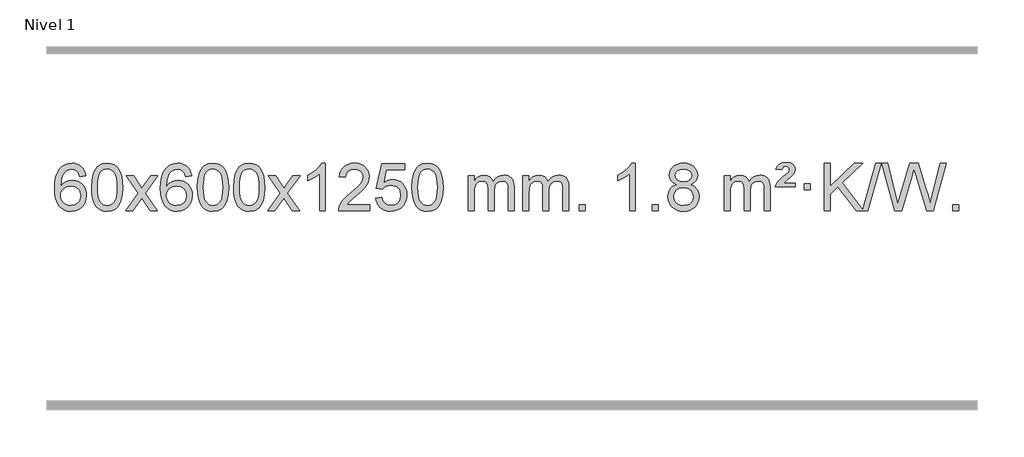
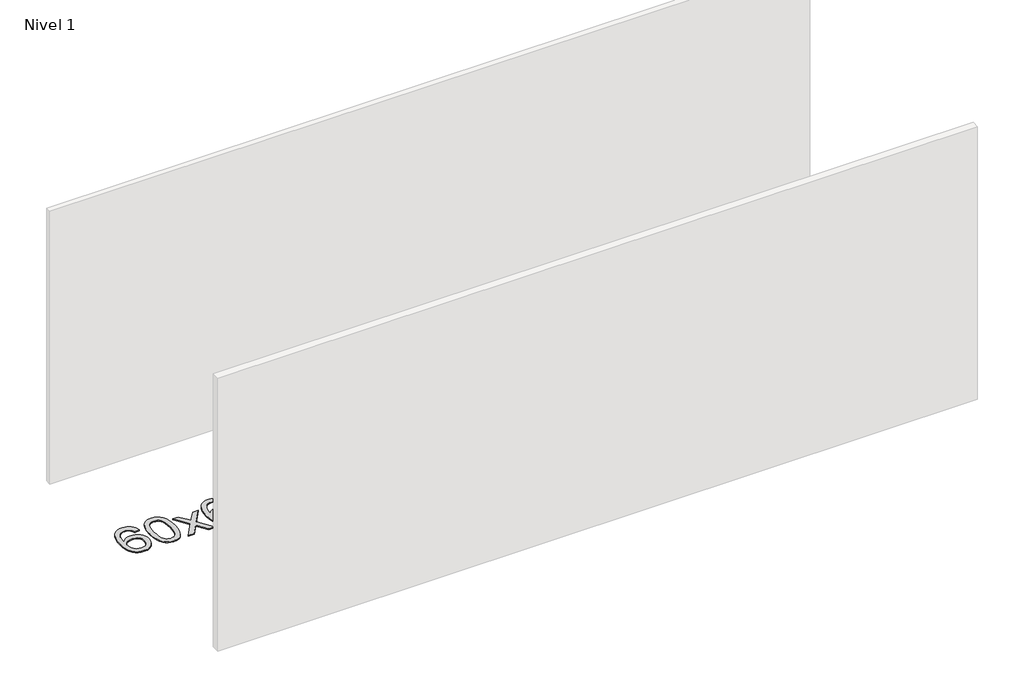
# One storey, part 4 of 6: 1 proxy.
"""IFC4 building model written with IfcOpenShell, lengths in millimetres."""

from ifc_helpers import new_model, si_unit, origin, origin_with_axes, place, context, project, spatial, polyline, outline, extrude, element, save

model = new_model("IFC4")

# Units and contexts
model_context = context("Model", 3, world=origin())
ifc_project = project(units=[si_unit("LENGTHUNIT", "METRE", prefix="MILLI")], contexts=[model_context])

# Site, building, storey
site = spatial("IfcSite", under=ifc_project)
building = spatial("IfcBuilding", under=site)
storey = spatial("IfcBuildingStorey", under=building, Name="Nivel 1", Elevation=0.0)

# Proxy
placement = place(None, origin())
element("IfcBuildingElementProxy", 1, Name="Texto de modelo 1", ObjectType="Texto de modelo 1", at=placement, inside=storey, context=model_context, shape_type="SweptSolid", body=[
    extrude(outline(polyline([(-6198.7504157, -3100.4890419), (-6248.9785708, -3106.7675613), (-6257.0719747, -3081.874213), (-6268.0103327, -3064.8780648), (-6290.7944909, -3049.2062918), (-6318.3365896, -3043.9823675), (-6341.6848336, -3047.0235253), (-6363.6596514, -3056.1469988), (-6382.5319978, -3075.3627017), (-6397.9462534, -3101.8134171), (-6408.3573138, -3139.227016), (-6412.2200748, -3191.3313693), (-6392.0724042, -3167.8237098), (-6367.9270826, -3151.2567573), (-6341.1330106, -3141.434308), (-6313.0390889, -3138.1601582), (-6288.90603, -3140.398107), (-6266.6369065, -3147.1119534), (-6246.2317185, -3158.3016975), (-6227.690466, -3173.9673391), (-6212.2823418, -3193.1769106), (-6201.2765387, -3214.9984443), (-6194.6730569, -3239.4319401), (-6192.4718963, -3266.4773982), (-6196.6167001, -3302.4439945), (-6209.0511116, -3335.786366), (-6228.745061, -3364.0642287), (-6254.668479, -3384.8372987), (-6285.644143, -3397.602804), (-6320.4948306, -3401.8579724), (-6350.4373594, -3399.0375437), (-6377.4797517, -3390.5762579), (-6401.6220076, -3376.4741147), (-6422.8641272, -3356.7311143), (-6440.1821721, -3330.5133908), (-6452.5522042, -3296.9870783), (-6459.9742234, -3256.1521768), (-6462.4482298, -3208.0086864), (-6459.7013776, -3154.0342663), (-6451.4608209, -3107.9693092), (-6437.7265598, -3069.8138149), (-6418.4985942, -3039.5677835), (-6397.6580791, -3019.5243462), (-6373.4943634, -3005.2076052), (-6346.007447, -2996.6175606), (-6315.1973299, -2993.7542124), (-6292.0636838, -2995.5261773), (-6271.1250669, -3000.8420722), (-6252.3814792, -3009.7018969), (-6235.8329208, -3022.1056515), (-6221.9269814, -3037.6364031), (-6211.1112507, -3055.8772186), (-6203.3857288, -3076.8280983), (-6198.7504157, -3100.4890419)]), holes=[polyline([(-6412.2200748, -3265.6925832), (-6409.313807, -3287.9494439), (-6400.5950037, -3309.2007605), (-6387.0569463, -3327.472233), (-6369.6929161, -3340.7895612), (-6348.7359051, -3348.9197533), (-6324.4189053, -3351.6298173), (-6291.2727375, -3346.0134855), (-6277.357601, -3338.9930708), (-6265.2144295, -3329.1644901), (-6255.3643891, -3316.9262824), (-6248.3286459, -3302.6769865), (-6242.7000514, -3268.1451299), (-6248.2550695, -3234.9989621), (-6255.1988422, -3221.3781312), (-6264.9201239, -3209.725469), (-6277.1000836, -3200.3904634), (-6291.4198903, -3193.7226022), (-6326.4790444, -3188.3883133), (-6359.5761613, -3193.7226022), (-6387.25315, -3209.725469), (-6398.1761796, -3221.2248471), (-6405.9783436, -3234.3858254), (-6410.659642, -3249.2084042), (-6412.2200748, -3265.6925832)])]), origin_with_axes(), (0.0, 0.0, 1.0), 10.0),
    extrude(outline(polyline([(-6148.5222606, -3197.9041943), (-6144.8311779, -3133.5861588), (-6133.7579299, -3082.2911459), (-6115.4128811, -3043.2343407), (-6103.5548181, -3028.0009605), (-6089.9063961, -3015.6309284), (-6074.4216298, -3006.0598651), (-6057.0545339, -2999.2233914), (-6016.6733536, -2993.7542124), (-5985.722215, -2996.991574), (-5958.0084381, -3006.7036586), (-5934.8318724, -3022.5103217), (-5917.4923677, -3044.0314184), (-5904.3957686, -3071.0830078), (-5893.94792, -3103.4811488), (-5887.1053149, -3144.6226186), (-5884.8244465, -3197.9041943), (-5888.478741, -3261.8543477), (-5899.4416244, -3313.0267333), (-5917.6763087, -3352.1203266), (-5929.5067805, -3367.3996922), (-5943.1460055, -3379.8341036), (-5958.6491659, -3389.4695462), (-5976.071444, -3396.3520052), (-6016.6733536, -3401.8579724), (-6044.3380796, -3399.4667394), (-6068.8635459, -3392.2930405), (-6090.2497526, -3380.3368757), (-6108.4966996, -3363.5982449), (-6126.0078825, -3333.3399508), (-6138.5158704, -3295.6381776), (-6146.0206631, -3250.4929255), (-6148.5222606, -3197.9041943)]), holes=[polyline([(-6098.2941056, -3197.8060924), (-6096.8225776, -3241.4706195), (-6092.4079936, -3276.8148822), (-6085.0503537, -3303.8388804), (-6074.7496579, -3322.5426142), (-6062.290721, -3335.2682656), (-6048.4583579, -3344.3580165), (-6033.2525688, -3349.8118671), (-6016.6733536, -3351.6298173), (-6000.0941383, -3349.8057357), (-5984.8883492, -3344.3334911), (-5971.0559862, -3335.2130833), (-5958.5970493, -3322.4445124), (-5948.2963534, -3303.7101217), (-5940.9387135, -3276.6922549), (-5936.5241295, -3241.3909118), (-5935.0526016, -3197.8060924), (-5936.4750786, -3155.2973278), (-5940.7425098, -3120.5753989), (-5947.854895, -3093.6403055), (-5957.8122343, -3074.4920476), (-5970.0627048, -3061.1440625), (-5984.0544833, -3051.6097875), (-5999.78757, -3045.8892225), (-6017.2619648, -3043.9823675), (-6033.7553409, -3045.6623619), (-6048.7036126, -3050.7023452), (-6062.10678, -3059.1023175), (-6073.9648429, -3070.8622786), (-6084.6088953, -3091.708925), (-6092.2117899, -3119.8151094), (-6096.7735266, -3155.1808319), (-6098.2941056, -3197.8060924)])]), origin_with_axes(), (0.0, 0.0, 1.0), 10.0),
    extrude(outline(polyline([(-5859.7103689, -3395.579453), (-5752.3869282, -3247.2494325), (-5853.4318496, -3100.4890419), (-5793.0011005, -3100.4890419), (-5744.2444734, -3171.122385), (-5721.4848406, -3204.4770192), (-5701.7663657, -3177.2047007), (-5646.2407099, -3100.4890419), (-5585.8099608, -3100.4890419), (-5691.9561791, -3247.2494325), (-5589.7340354, -3395.579453), (-5650.1647845, -3395.579453), (-5711.6746541, -3306.4048574), (-5722.9563686, -3290.1199477), (-5799.2796199, -3395.579453), (-5859.7103689, -3395.579453)])), origin_with_axes(), (0.0, 0.0, 1.0), 10.0),
    extrude(outline(polyline([(-5300.9221437, -3100.4890419), (-5351.1502988, -3106.7675613), (-5359.2437027, -3081.874213), (-5370.1820607, -3064.8780648), (-5392.9662189, -3049.2062918), (-5420.5083176, -3043.9823675), (-5443.8565616, -3047.0235253), (-5465.8313794, -3056.1469988), (-5484.7037258, -3075.3627017), (-5500.1179814, -3101.8134171), (-5510.5290419, -3139.227016), (-5514.3918028, -3191.3313693), (-5494.2441322, -3167.8237098), (-5470.0988106, -3151.2567573), (-5443.3047386, -3141.434308), (-5415.2108169, -3138.1601582), (-5391.077758, -3140.398107), (-5368.8086346, -3147.1119534), (-5348.4034466, -3158.3016975), (-5329.862194, -3173.9673391), (-5314.4540698, -3193.1769106), (-5303.4482668, -3214.9984443), (-5296.844785, -3239.4319401), (-5294.6436244, -3266.4773982), (-5298.7884282, -3302.4439945), (-5311.2228396, -3335.786366), (-5330.9167891, -3364.0642287), (-5356.840207, -3384.8372987), (-5387.815871, -3397.602804), (-5422.6665587, -3401.8579724), (-5452.6090874, -3399.0375437), (-5479.6514797, -3390.5762579), (-5503.7937357, -3376.4741147), (-5525.0358552, -3356.7311143), (-5542.3539001, -3330.5133908), (-5554.7239322, -3296.9870783), (-5562.1459515, -3256.1521768), (-5564.6199579, -3208.0086864), (-5561.8731057, -3154.0342663), (-5553.632549, -3107.9693092), (-5539.8982878, -3069.8138149), (-5520.6703222, -3039.5677835), (-5499.8298072, -3019.5243462), (-5475.6660915, -3005.2076052), (-5448.179175, -2996.6175606), (-5417.3690579, -2993.7542124), (-5394.2354118, -2995.5261773), (-5373.2967949, -3000.8420722), (-5354.5532073, -3009.7018969), (-5338.0046489, -3022.1056515), (-5324.0987094, -3037.6364031), (-5313.2829788, -3055.8772186), (-5305.5574569, -3076.8280983), (-5300.9221437, -3100.4890419)]), holes=[polyline([(-5514.3918028, -3265.6925832), (-5511.485535, -3287.9494439), (-5502.7667318, -3309.2007605), (-5489.2286743, -3327.472233), (-5471.8646442, -3340.7895612), (-5450.9076332, -3348.9197533), (-5426.5906333, -3351.6298173), (-5393.4444655, -3346.0134855), (-5379.5293291, -3338.9930708), (-5367.3861575, -3329.1644901), (-5357.5361171, -3316.9262824), (-5350.500374, -3302.6769865), (-5344.8717794, -3268.1451299), (-5350.4267976, -3234.9989621), (-5357.3705702, -3221.3781312), (-5367.0918519, -3209.725469), (-5379.2718117, -3200.3904634), (-5393.5916183, -3193.7226022), (-5428.6507725, -3188.3883133), (-5461.7478893, -3193.7226022), (-5489.4248781, -3209.725469), (-5500.3479076, -3221.2248471), (-5508.1500716, -3234.3858254), (-5512.83137, -3249.2084042), (-5514.3918028, -3265.6925832)])]), origin_with_axes(), (0.0, 0.0, 1.0), 10.0),
    extrude(outline(polyline([(-5250.6939887, -3197.9041943), (-5247.002906, -3133.5861588), (-5235.9296579, -3082.2911459), (-5217.5846091, -3043.2343407), (-5205.7265461, -3028.0009605), (-5192.0781241, -3015.6309284), (-5176.5933578, -3006.0598651), (-5159.2262619, -2999.2233914), (-5118.8450816, -2993.7542124), (-5087.8939431, -2996.991574), (-5060.1801661, -3006.7036586), (-5037.0036004, -3022.5103217), (-5019.6640957, -3044.0314184), (-5006.5674967, -3071.0830078), (-4996.119648, -3103.4811488), (-4989.2770429, -3144.6226186), (-4986.9961745, -3197.9041943), (-4990.650469, -3261.8543477), (-5001.6133525, -3313.0267333), (-5019.8480367, -3352.1203266), (-5031.6785085, -3367.3996922), (-5045.3177335, -3379.8341036), (-5060.8208939, -3389.4695462), (-5078.2431721, -3396.3520052), (-5118.8450816, -3401.8579724), (-5146.5098076, -3399.4667394), (-5171.035274, -3392.2930405), (-5192.4214806, -3380.3368757), (-5210.6684276, -3363.5982449), (-5228.1796106, -3333.3399508), (-5240.6875984, -3295.6381776), (-5248.1923911, -3250.4929255), (-5250.6939887, -3197.9041943)]), holes=[polyline([(-5200.4658336, -3197.8060924), (-5198.9943056, -3241.4706195), (-5194.5797217, -3276.8148822), (-5187.2220818, -3303.8388804), (-5176.9213859, -3322.5426142), (-5164.462449, -3335.2682656), (-5150.630086, -3344.3580165), (-5135.4242968, -3349.8118671), (-5118.8450816, -3351.6298173), (-5102.2658663, -3349.8057357), (-5087.0600772, -3344.3334911), (-5073.2277142, -3335.2130833), (-5060.7687773, -3322.4445124), (-5050.4680814, -3303.7101217), (-5043.1104415, -3276.6922549), (-5038.6958576, -3241.3909118), (-5037.2243296, -3197.8060924), (-5038.6468066, -3155.2973278), (-5042.9142378, -3120.5753989), (-5050.026623, -3093.6403055), (-5059.9839624, -3074.4920476), (-5072.2344328, -3061.1440625), (-5086.2262114, -3051.6097875), (-5101.959298, -3045.8892225), (-5119.4336928, -3043.9823675), (-5135.9270689, -3045.6623619), (-5150.8753406, -3050.7023452), (-5164.278508, -3059.1023175), (-5176.136571, -3070.8622786), (-5186.7806234, -3091.708925), (-5194.3835179, -3119.8151094), (-5198.9452547, -3155.1808319), (-5200.4658336, -3197.8060924)])]), origin_with_axes(), (0.0, 0.0, 1.0), 10.0),
    extrude(outline(polyline([(-4943.0465388, -3197.9041943), (-4939.3554561, -3133.5861588), (-4928.2822081, -3082.2911459), (-4909.9371593, -3043.2343407), (-4898.0790963, -3028.0009605), (-4884.4306743, -3015.6309284), (-4868.945908, -3006.0598651), (-4851.5788121, -2999.2233914), (-4811.1976318, -2993.7542124), (-4780.2464932, -2996.991574), (-4752.5327163, -3006.7036586), (-4729.3561506, -3022.5103217), (-4712.0166459, -3044.0314184), (-4698.9200468, -3071.0830078), (-4688.4721982, -3103.4811488), (-4681.6295931, -3144.6226186), (-4679.3487247, -3197.9041943), (-4683.0030192, -3261.8543477), (-4693.9659026, -3313.0267333), (-4712.2005869, -3352.1203266), (-4724.0310587, -3367.3996922), (-4737.6702837, -3379.8341036), (-4753.1734441, -3389.4695462), (-4770.5957222, -3396.3520052), (-4811.1976318, -3401.8579724), (-4838.8623578, -3399.4667394), (-4863.3878241, -3392.2930405), (-4884.7740308, -3380.3368757), (-4903.0209778, -3363.5982449), (-4920.5321607, -3333.3399508), (-4933.0401486, -3295.6381776), (-4940.5449413, -3250.4929255), (-4943.0465388, -3197.9041943)]), holes=[polyline([(-4892.8183838, -3197.8060924), (-4891.3468558, -3241.4706195), (-4886.9322718, -3276.8148822), (-4879.5746319, -3303.8388804), (-4869.2739361, -3322.5426142), (-4856.8149992, -3335.2682656), (-4842.9826361, -3344.3580165), (-4827.776847, -3349.8118671), (-4811.1976318, -3351.6298173), (-4794.6184165, -3349.8057357), (-4779.4126274, -3344.3334911), (-4765.5802644, -3335.2130833), (-4753.1213275, -3322.4445124), (-4742.8206316, -3303.7101217), (-4735.4629917, -3276.6922549), (-4731.0484077, -3241.3909118), (-4729.5768798, -3197.8060924), (-4730.9993568, -3155.2973278), (-4735.266788, -3120.5753989), (-4742.3791732, -3093.6403055), (-4752.3365125, -3074.4920476), (-4764.586983, -3061.1440625), (-4778.5787615, -3051.6097875), (-4794.3118482, -3045.8892225), (-4811.786243, -3043.9823675), (-4828.2796191, -3045.6623619), (-4843.2278908, -3050.7023452), (-4856.6310582, -3059.1023175), (-4868.4891211, -3070.8622786), (-4879.1331735, -3091.708925), (-4886.7360681, -3119.8151094), (-4891.2978048, -3155.1808319), (-4892.8183838, -3197.8060924)])]), origin_with_axes(), (0.0, 0.0, 1.0), 10.0),
    extrude(outline(polyline([(-4654.2346472, -3395.579453), (-4546.9112064, -3247.2494325), (-4647.9561278, -3100.4890419), (-4587.5253787, -3100.4890419), (-4538.7687516, -3171.122385), (-4516.0091188, -3204.4770192), (-4496.2906439, -3177.2047007), (-4440.7649881, -3100.4890419), (-4380.334239, -3100.4890419), (-4486.4804574, -3247.2494325), (-4384.2583136, -3395.579453), (-4444.6890627, -3395.579453), (-4506.1989323, -3306.4048574), (-4517.4806468, -3290.1199477), (-4593.8038981, -3395.579453), (-4654.2346472, -3395.579453)])), origin_with_axes(), (0.0, 0.0, 1.0), 10.0),
    extrude(outline(polyline([(-4164.5101352, -3395.579453), (-4214.7382902, -3395.579453), (-4214.7382902, -3082.4382987), (-4235.707564, -3099.3976587), (-4262.317695, -3116.3324932), (-4315.1946004, -3141.6918254), (-4315.1946004, -3094.2105225), (-4275.7453878, -3072.7507395), (-4241.5691504, -3047.219729), (-4214.6279257, -3020.0700378), (-4196.8837508, -2993.7542124), (-4164.5101352, -2993.7542124), (-4164.5101352, -3395.579453)])), origin_with_axes(), (0.0, 0.0, 1.0), 10.0),
    extrude(outline(polyline([(-3787.7989721, -3345.3512979), (-3787.7989721, -3395.579453), (-4051.4967863, -3395.579453), (-4050.3931403, -3377.8965918), (-4046.1011837, -3360.9494945), (-4033.7158232, -3333.8856424), (-4015.5915035, -3307.6311307), (-3989.37378, -3280.1503456), (-3952.7082078, -3249.4076736), (-3898.5069272, -3201.2641831), (-3865.9861588, -3165.7267824), (-3849.7257746, -3136.884834), (-3844.3056466, -3108.8277005), (-3849.4192063, -3083.6768347), (-3864.7598855, -3062.7688747), (-3888.3411214, -3048.6789943), (-3918.1763512, -3043.9823675), (-3949.5076345, -3048.5686297), (-3973.8491598, -3062.3274163), (-3989.557721, -3084.1796068), (-3994.9901118, -3113.0460807), (-4045.2182669, -3106.7675613), (-4040.8987191, -3080.838012), (-4033.0413728, -3058.1826125), (-4021.646228, -3038.8013627), (-4006.7132847, -3022.6942627), (-3988.5858994, -3010.0329907), (-3967.6074286, -3000.989225), (-3943.7778724, -2995.5629655), (-3917.0972307, -2993.7542124), (-3890.1774657, -2995.7653006), (-3866.2191508, -3001.7985654), (-3845.2222859, -3011.8540066), (-3827.1868711, -3025.9316242), (-3812.7015175, -3042.9890861), (-3802.3548364, -3061.9840598), (-3796.1468277, -3082.9165453), (-3794.0774915, -3105.7865427), (-3796.3093089, -3129.8092369), (-3803.0047612, -3153.4149983), (-3814.8873497, -3177.4254299), (-3832.6805755, -3202.6621347), (-3861.0442774, -3232.7916701), (-3904.6382938, -3271.4805933), (-3962.4202925, -3319.795762), (-3985.0818234, -3345.3512979), (-3787.7989721, -3345.3512979)])), origin_with_axes(), (0.0, 0.0, 1.0), 10.0),
    extrude(outline(polyline([(-3737.570817, -3288.8446235), (-3687.342662, -3282.5661041), (-3678.1210866, -3312.7201649), (-3662.0323807, -3334.3148381), (-3639.1501206, -3347.3010725), (-3609.5478827, -3351.6298173), (-3590.418019, -3350.1245668), (-3573.5444981, -3345.6088153), (-3558.9273202, -3338.0825628), (-3546.5664851, -3327.5458094), (-3536.7379045, -3314.519721), (-3529.7174898, -3299.5254641), (-3524.101158, -3263.6324441), (-3529.3618705, -3229.8363514), (-3535.9377612, -3215.9181493), (-3545.1440081, -3203.9865099), (-3557.0112681, -3194.4154467), (-3571.5701981, -3187.5789729), (-3608.7630678, -3182.1097939), (-3633.1291186, -3184.2925604), (-3652.8598563, -3190.8408599), (-3668.6174684, -3200.8717757), (-3681.0641426, -3213.5023908), (-3731.2922977, -3207.2238715), (-3687.342662, -3000.0327318), (-3492.708561, -3000.0327318), (-3492.708561, -3050.2608869), (-3646.7284897, -3050.2608869), (-3668.2127982, -3160.919791), (-3650.4870174, -3148.2155994), (-3632.332041, -3139.1411769), (-3613.7478688, -3133.6965234), (-3594.734501, -3131.8816388), (-3570.273414, -3134.1318504), (-3547.8050212, -3140.882485), (-3527.3293225, -3152.1335427), (-3508.8463179, -3167.8850234), (-3493.5454926, -3187.1743027), (-3482.6163316, -3209.038756), (-3476.0588351, -3233.4783832), (-3473.8730029, -3260.4931844), (-3475.8411716, -3286.5147042), (-3481.7456776, -3310.7213394), (-3491.586521, -3333.1130902), (-3505.3637017, -3353.6899565), (-3526.2348735, -3374.7634634), (-3550.5886616, -3389.8159684), (-3578.4250659, -3398.8474714), (-3609.7440864, -3401.8579724), (-3635.6644387, -3399.9235262), (-3659.077062, -3394.1201877), (-3679.9819564, -3384.447957), (-3698.3791218, -3370.9068338), (-3713.6860785, -3354.1712688), (-3725.3203466, -3334.915712), (-3733.2819261, -3313.1401636), (-3737.570817, -3288.8446235)])), origin_with_axes(), (0.0, 0.0, 1.0), 10.0),
    extrude(outline(polyline([(-3429.9233672, -3197.9041943), (-3426.2322845, -3133.5861588), (-3415.1590365, -3082.2911459), (-3396.8139876, -3043.2343407), (-3384.9559247, -3028.0009605), (-3371.3075026, -3015.6309284), (-3355.8227363, -3006.0598651), (-3338.4556405, -2999.2233914), (-3298.0744601, -2993.7542124), (-3267.1233216, -2996.991574), (-3239.4095446, -3006.7036586), (-3216.2329789, -3022.5103217), (-3198.8934742, -3044.0314184), (-3185.7968752, -3071.0830078), (-3175.3490265, -3103.4811488), (-3168.5064214, -3144.6226186), (-3166.2255531, -3197.9041943), (-3169.8798475, -3261.8543477), (-3180.842731, -3313.0267333), (-3199.0774152, -3352.1203266), (-3210.9078871, -3367.3996922), (-3224.547112, -3379.8341036), (-3240.0502724, -3389.4695462), (-3257.4725506, -3396.3520052), (-3298.0744601, -3401.8579724), (-3325.7391862, -3399.4667394), (-3350.2646525, -3392.2930405), (-3371.6508592, -3380.3368757), (-3389.8978061, -3363.5982449), (-3407.4089891, -3333.3399508), (-3419.9169769, -3295.6381776), (-3427.4217696, -3250.4929255), (-3429.9233672, -3197.9041943)]), holes=[polyline([(-3379.6952121, -3197.8060924), (-3378.2236842, -3241.4706195), (-3373.8091002, -3276.8148822), (-3366.4514603, -3303.8388804), (-3356.1507644, -3322.5426142), (-3343.6918275, -3335.2682656), (-3329.8594645, -3344.3580165), (-3314.6536754, -3349.8118671), (-3298.0744601, -3351.6298173), (-3281.4952449, -3349.8057357), (-3266.2894558, -3344.3334911), (-3252.4570927, -3335.2130833), (-3239.9981558, -3322.4445124), (-3229.69746, -3303.7101217), (-3222.3398201, -3276.6922549), (-3217.9252361, -3241.3909118), (-3216.4537081, -3197.8060924), (-3217.8761852, -3155.2973278), (-3222.1436163, -3120.5753989), (-3229.2560016, -3093.6403055), (-3239.2133409, -3074.4920476), (-3251.4638113, -3061.1440625), (-3265.4555899, -3051.6097875), (-3281.1886766, -3045.8892225), (-3298.6630713, -3043.9823675), (-3315.1564474, -3045.6623619), (-3330.1047192, -3050.7023452), (-3343.5078865, -3059.1023175), (-3355.3659495, -3070.8622786), (-3366.0100019, -3091.708925), (-3373.6128965, -3119.8151094), (-3378.1746332, -3155.1808319), (-3379.6952121, -3197.8060924)])]), origin_with_axes(), (0.0, 0.0, 1.0), 10.0),
    extrude(outline(polyline([(-2952.755894, -3395.579453), (-2952.755894, -3100.4890419), (-2902.5277389, -3100.4890419), (-2902.5277389, -3149.0494653), (-2887.4200517, -3126.7435537), (-2867.9958823, -3109.2691589), (-2844.9174185, -3097.9751816), (-2818.8468478, -3094.2105225), (-2790.9123416, -3098.048758), (-2768.5205908, -3109.5634645), (-2751.7942228, -3127.9943524), (-2740.8558648, -3152.5811324), (-2722.5476041, -3127.0439906), (-2701.6641696, -3108.803175), (-2678.205561, -3097.8586857), (-2652.1717785, -3094.2105225), (-2632.0639617, -3095.7280358), (-2614.414823, -3100.2805755), (-2599.2243623, -3107.8681416), (-2586.4925796, -3118.4907342), (-2576.4279413, -3132.2709806), (-2569.238914, -3149.3315082), (-2564.9254976, -3169.6723168), (-2563.4876922, -3193.2934066), (-2563.4876922, -3395.579453), (-2613.7158472, -3395.579453), (-2613.7158472, -3214.875817), (-2614.8808069, -3189.8230531), (-2618.3756858, -3172.9372695), (-2624.9239854, -3161.3735121), (-2635.2492067, -3152.2868268), (-2648.5297467, -3146.4007149), (-2663.9440023, -3144.4386776), (-2691.1550072, -3149.4663982), (-2713.3382915, -3164.54956), (-2721.9436645, -3176.1194488), (-2728.0903595, -3190.7182326), (-2733.0077155, -3229.0024856), (-2733.0077155, -3395.579453), (-2783.2358706, -3395.579453), (-2783.2358706, -3209.2840106), (-2786.1421384, -3180.8835206), (-2794.8609417, -3160.6254854), (-2810.2016209, -3148.4853796), (-2832.9735164, -3144.4386776), (-2852.3241093, -3147.1364789), (-2870.1541233, -3155.2298828), (-2884.8694032, -3168.5226856), (-2894.8757934, -3186.8186835), (-2900.6147525, -3212.2025411), (-2902.5277389, -3246.7589232), (-2902.5277389, -3395.579453), (-2952.755894, -3395.579453)])), origin_with_axes(), (0.0, 0.0, 1.0), 10.0),
    extrude(outline(polyline([(-2488.1454596, -3395.579453), (-2488.1454596, -3100.4890419), (-2437.9173045, -3100.4890419), (-2437.9173045, -3149.0494653), (-2422.8096172, -3126.7435537), (-2403.3854479, -3109.2691589), (-2380.306984, -3097.9751816), (-2354.2364133, -3094.2105225), (-2326.3019071, -3098.048758), (-2303.9101564, -3109.5634645), (-2287.1837883, -3127.9943524), (-2276.2454303, -3152.5811324), (-2257.9371697, -3127.0439906), (-2237.0537351, -3108.803175), (-2213.5951266, -3097.8586857), (-2187.561344, -3094.2105225), (-2167.4535273, -3095.7280358), (-2149.8043886, -3100.2805755), (-2134.6139279, -3107.8681416), (-2121.8821452, -3118.4907342), (-2111.8175069, -3132.2709806), (-2104.6284796, -3149.3315082), (-2100.3150632, -3169.6723168), (-2098.8772577, -3193.2934066), (-2098.8772577, -3395.579453), (-2149.1054128, -3395.579453), (-2149.1054128, -3214.875817), (-2150.2703724, -3189.8230531), (-2153.7652514, -3172.9372695), (-2160.3135509, -3161.3735121), (-2170.6387722, -3152.2868268), (-2183.9193123, -3146.4007149), (-2199.3335679, -3144.4386776), (-2226.5445728, -3149.4663982), (-2248.7278571, -3164.54956), (-2257.3332301, -3176.1194488), (-2263.4799251, -3190.7182326), (-2268.3972811, -3229.0024856), (-2268.3972811, -3395.579453), (-2318.6254362, -3395.579453), (-2318.6254362, -3209.2840106), (-2321.5317039, -3180.8835206), (-2330.2505072, -3160.6254854), (-2345.5911864, -3148.4853796), (-2368.3630819, -3144.4386776), (-2387.7136749, -3147.1364789), (-2405.5436889, -3155.2298828), (-2420.2589687, -3168.5226856), (-2430.265359, -3186.8186835), (-2436.0043181, -3212.2025411), (-2437.9173045, -3246.7589232), (-2437.9173045, -3395.579453), (-2488.1454596, -3395.579453)])), origin_with_axes(), (0.0, 0.0, 1.0), 10.0),
    extrude(outline(polyline([(-2010.9779863, -3395.579453), (-2010.9779863, -3345.3512979), (-1960.7498313, -3345.3512979), (-1960.7498313, -3395.579453), (-2010.9779863, -3395.579453)])), origin_with_axes(), (0.0, 0.0, 1.0), 10.0),
    extrude(outline(polyline([(-1533.8105131, -3395.579453), (-1584.0386682, -3395.579453), (-1584.0386682, -3082.4382987), (-1605.0079419, -3099.3976587), (-1631.6180729, -3116.3324932), (-1684.4949784, -3141.6918254), (-1684.4949784, -3094.2105225), (-1645.0457657, -3072.7507395), (-1610.8695284, -3047.219729), (-1583.9283036, -3020.0700378), (-1566.1841287, -2993.7542124), (-1533.8105131, -2993.7542124), (-1533.8105131, -3395.579453)])), origin_with_axes(), (0.0, 0.0, 1.0), 10.0),
    extrude(outline(polyline([(-1389.4045673, -3395.579453), (-1389.4045673, -3345.3512979), (-1339.1764122, -3345.3512979), (-1339.1764122, -3395.579453), (-1389.4045673, -3395.579453)])), origin_with_axes(), (0.0, 0.0, 1.0), 10.0),
    extrude(outline(polyline([(-1184.3716686, -3174.2616447), (-1211.2638425, -3161.0178929), (-1230.1361888, -3143.0652515), (-1241.2830133, -3120.7716026), (-1244.9986215, -3094.5048281), (-1242.9752705, -3074.0199324), (-1236.9052176, -3055.2395565), (-1226.7884627, -3038.1637006), (-1212.6250059, -3022.7923645), (-1195.0954288, -3010.088173), (-1174.8803132, -3001.0137504), (-1151.979659, -2995.5690969), (-1126.3934662, -2993.7542124), (-1100.6846461, -2995.6120165), (-1077.6123136, -3001.1854287), (-1057.1764688, -3010.4744491), (-1039.3771116, -3023.4790776), (-1024.9561374, -3039.1508506), (-1014.6554415, -3056.4413044), (-1008.475024, -3075.3504389), (-1006.4148848, -3095.8782543), (-1010.0814421, -3121.2989001), (-1021.0811137, -3143.2124043), (-1039.5365271, -3161.0546811), (-1065.5703097, -3174.2616447), (-1034.6559593, -3190.1909351), (-1012.153844, -3213.6495436), (-998.4318456, -3243.5092989), (-993.8578461, -3278.6420295), (-996.1264517, -3303.6947933), (-1002.9322686, -3326.6628926), (-1014.2752968, -3347.5463272), (-1030.1555363, -3366.3450971), (-1049.7391211, -3381.88198), (-1072.1921856, -3392.9797536), (-1097.5147296, -3399.6384177), (-1125.7067531, -3401.8579724), (-1153.8987767, -3399.6292206), (-1179.2213207, -3392.9429654), (-1201.6743852, -3381.7992066), (-1221.25797, -3366.1979443), (-1237.1382095, -3347.26735), (-1248.4812377, -3326.135595), (-1255.2870546, -3302.8026795), (-1257.5556602, -3277.2686033), (-1252.7977197, -3240.7747094), (-1238.5238983, -3210.7555386), (-1215.46996, -3188.2411605), (-1184.3716686, -3174.2616447)]), holes=[polyline([(-1194.7704664, -3095.9763561), (-1190.3190942, -3117.902123), (-1176.9649778, -3135.413306), (-1155.1005246, -3146.8912243), (-1125.118142, -3150.717197), (-1095.8347351, -3146.9157497), (-1074.3013757, -3135.5114079), (-1061.0576239, -3118.5888361), (-1056.6430399, -3098.232699), (-1061.2047767, -3077.1040098), (-1074.8899869, -3059.629615), (-1096.7176519, -3047.8941794), (-1125.7067531, -3043.9823675), (-1154.8797954, -3047.8083402), (-1176.6706722, -3059.2862585), (-1190.2455178, -3076.1107284), (-1194.7704664, -3095.9763561)]), polyline([(-1207.3275051, -3275.5027698), (-1205.2305778, -3294.7184726), (-1198.9397957, -3313.3210389), (-1187.3269873, -3329.5446349), (-1169.2639814, -3341.623427), (-1147.6325201, -3349.1282197), (-1125.3143457, -3351.6298173), (-1091.1258456, -3346.3691048), (-1077.2321689, -3339.7932141), (-1065.4722078, -3330.5869672), (-1049.4325528, -3306.6869002), (-1044.0860012, -3277.0723996), (-1049.6042311, -3246.9551269), (-1066.1589209, -3222.5277625), (-1078.237713, -3213.0854579), (-1092.4011699, -3206.3409547), (-1126.9820774, -3200.9453521), (-1160.6923309, -3206.2673783), (-1174.4296577, -3212.919911), (-1186.0884513, -3222.2334569), (-1202.0177417, -3246.1948375), (-1207.3275051, -3275.5027698)])]), origin_with_axes(), (0.0, 0.0, 1.0), 10.0),
    extrude(outline(polyline([(-780.388187, -3395.579453), (-780.388187, -3100.4890419), (-730.1600319, -3100.4890419), (-730.1600319, -3149.0494653), (-715.0523447, -3126.7435537), (-695.6281753, -3109.2691589), (-672.5497115, -3097.9751816), (-646.4791408, -3094.2105225), (-618.5446346, -3098.048758), (-596.1528838, -3109.5634645), (-579.4265158, -3127.9943524), (-568.4881578, -3152.5811324), (-550.1798972, -3127.0439906), (-529.2964626, -3108.803175), (-505.837854, -3097.8586857), (-479.8040715, -3094.2105225), (-459.6962548, -3095.7280358), (-442.047116, -3100.2805755), (-426.8566553, -3107.8681416), (-414.1248726, -3118.4907342), (-404.0602344, -3132.2709806), (-396.871207, -3149.3315082), (-392.5577906, -3169.6723168), (-391.1199852, -3193.2934066), (-391.1199852, -3395.579453), (-441.3481403, -3395.579453), (-441.3481403, -3214.875817), (-442.5130999, -3189.8230531), (-446.0079789, -3172.9372695), (-452.5562784, -3161.3735121), (-462.8814997, -3152.2868268), (-476.1620397, -3146.4007149), (-491.5762953, -3144.4386776), (-518.7873002, -3149.4663982), (-540.9705845, -3164.54956), (-549.5759576, -3176.1194488), (-555.7226526, -3190.7182326), (-560.6400086, -3229.0024856), (-560.6400086, -3395.579453), (-610.8681636, -3395.579453), (-610.8681636, -3209.2840106), (-613.7744314, -3180.8835206), (-622.4932347, -3160.6254854), (-637.8339139, -3148.4853796), (-660.6058094, -3144.4386776), (-679.9564023, -3147.1364789), (-697.7864164, -3155.2298828), (-712.5016962, -3168.5226856), (-722.5080864, -3186.8186835), (-728.2470456, -3212.2025411), (-730.1600319, -3246.7589232), (-730.1600319, -3395.579453), (-780.388187, -3395.579453)])), origin_with_axes(), (0.0, 0.0, 1.0), 10.0),
    extrude(outline(polyline([(-347.1703495, -3194.6668327), (-343.3443767, -3178.8479069), (-335.0057182, -3162.9799302), (-313.4968842, -3137.8413272), (-281.5402016, -3110.1030247), (-237.3943621, -3072.726214), (-230.2574514, -3061.1992448), (-227.8784812, -3049.3779701), (-229.7669421, -3037.2869152), (-235.4323248, -3027.5012541), (-244.801053, -3021.026531), (-257.7995501, -3018.8682899), (-270.2339616, -3020.4869707), (-279.0876549, -3025.343013), (-285.5133271, -3034.8098431), (-290.663675, -3050.2608869), (-340.8918301, -3043.9823675), (-330.051574, -3018.7701881), (-313.4233078, -3001.2099542), (-289.6581309, -2990.9092583), (-257.4071427, -2987.475693), (-221.6244873, -2991.6082341), (-196.8782917, -3004.0058573), (-182.4573175, -3022.3386434), (-177.6503261, -3044.2766731), (-181.746079, -3067.1834586), (-194.0333376, -3088.8149199), (-214.561153, -3108.6314968), (-251.0305214, -3136.6886303), (-276.6351083, -3163.2742358), (-177.6503261, -3163.2742358), (-177.6503261, -3194.6668327), (-347.1703495, -3194.6668327)])), origin_with_axes(), (0.0, 0.0, 1.0), 10.0),
    extrude(outline(polyline([(-102.3080935, -3219.7809102), (-102.3080935, -3169.5527552), (-52.0799384, -3169.5527552), (-52.0799384, -3219.7809102), (-102.3080935, -3219.7809102)])), origin_with_axes(), (0.0, 0.0, 1.0), 10.0),
    extrude(outline(polyline([(338.5616895, -3395.579453), (185.1303721, -3192.9009991), (117.440085, -3257.4520265), (117.440085, -3395.579453), (67.2119299, -3395.579453), (67.2119299, -2993.7542124), (117.440085, -2993.7542124), (117.440085, -3190.4484525), (323.4540023, -2993.7542124), (393.6949379, -2993.7542124), (220.7413492, -3158.9577537), (395.3949591, -3389.5349332), (506.7082868, -2993.7542124), (552.0313486, -2993.7542124), (439.0179997, -3395.579453), (399.9734572, -3395.579453), (393.6949379, -3395.579453), (338.5616895, -3395.579453)])), origin_with_axes(), (0.0, 0.0, 1.0), 10.0),
    extrude(outline(polyline([(666.5162255, -3395.579453), (556.9364419, -2993.7542124), (608.7342268, -2993.7542124), (672.3042355, -3257.844434), (691.9246086, -3339.3670841), (712.9184078, -3267.2622131), (792.5771225, -2993.7542124), (867.2326421, -2993.7542124), (925.1127426, -3192.0180823), (949.9079891, -3265.5944814), (968.1794615, -3339.3670841), (987.2112234, -3260.1988788), (1051.3698434, -2993.7542124), (1103.1676283, -2993.7542124), (993.4897428, -3395.579453), (939.8280224, -3395.579453), (843.4919906, -3085.5775584), (830.0520351, -3042.3146358), (814.9443478, -3094.4067263), (727.1431783, -3395.579453), (666.5162255, -3395.579453)])), origin_with_axes(), (0.0, 0.0, 1.0), 10.0),
    extrude(outline(polyline([(1159.6743028, -3395.579453), (1159.6743028, -3345.3512979), (1209.9024578, -3345.3512979), (1209.9024578, -3395.579453), (1159.6743028, -3395.579453)])), origin_with_axes(), (0.0, 0.0, 1.0), 10.0),
])

save(model, "model.ifc")
